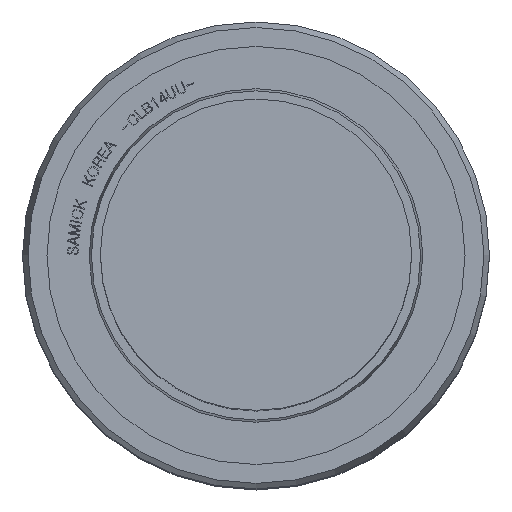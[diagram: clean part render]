
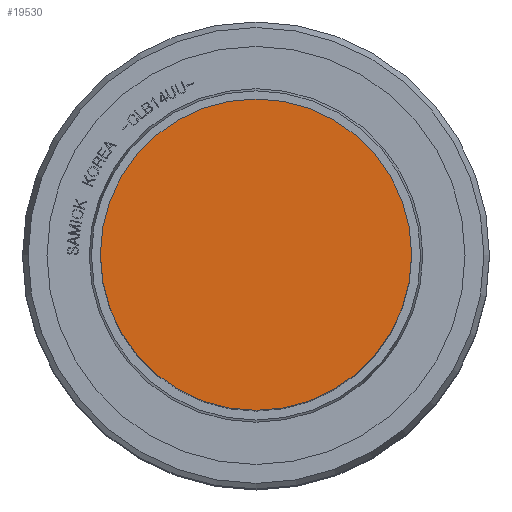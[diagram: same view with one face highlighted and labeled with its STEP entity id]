
A CAD part, top view. The second image highlights one B-rep face of the part: STEP entity #19530.
In plain terms, the highlighted planar face has unit normal (0, 0, 1).
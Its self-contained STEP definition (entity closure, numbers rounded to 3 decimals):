
#733=PLANE('',#20675);
#2492=FACE_OUTER_BOUND('',#3567,.T.);
#3567=EDGE_LOOP('',(#12772));
#4712=CIRCLE('',#20669,7.);
#7818=VERTEX_POINT('',#24429);
#9790=EDGE_CURVE('',#7818,#7818,#4712,.T.);
#12772=ORIENTED_EDGE('',*,*,#9790,.T.);
#19530=ADVANCED_FACE('',(#2492),#733,.T.);
#20669=AXIS2_PLACEMENT_3D('',#24430,#21453,#21454);
#20675=AXIS2_PLACEMENT_3D('',#24441,#21467,#21468);
#21453=DIRECTION('center_axis',(0.,0.,1.));
#21454=DIRECTION('ref_axis',(-1.,0.,0.));
#21467=DIRECTION('center_axis',(0.,0.,1.));
#21468=DIRECTION('ref_axis',(1.,0.,0.));
#24429=CARTESIAN_POINT('',(7.,0.,34.));
#24430=CARTESIAN_POINT('Origin',(0.,0.,34.));
#24441=CARTESIAN_POINT('Origin',(0.,0.,34.));
